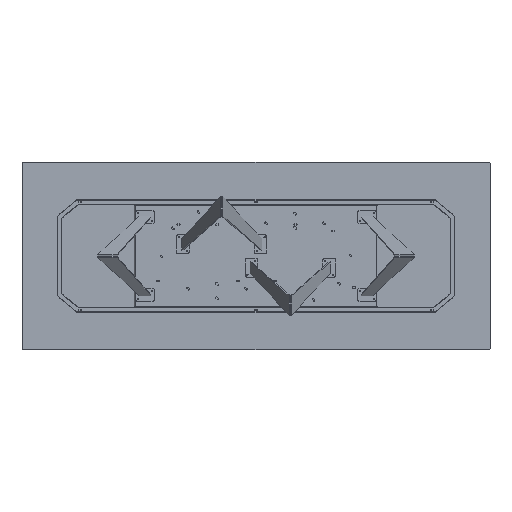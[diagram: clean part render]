
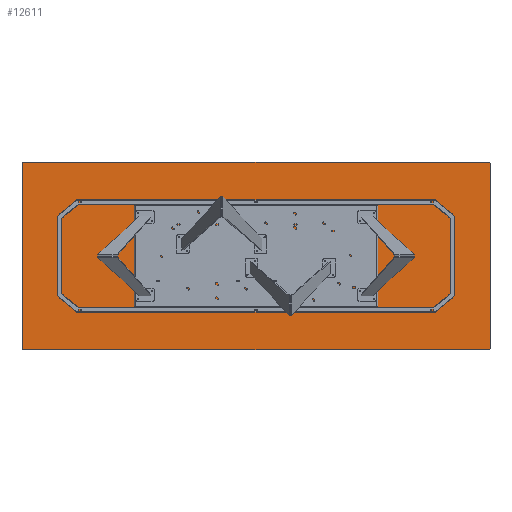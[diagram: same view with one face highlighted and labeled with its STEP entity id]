
A CAD part, front view. The second image highlights one B-rep face of the part: STEP entity #12611.
In plain terms, the highlighted planar face has unit normal (0, -1, 0).
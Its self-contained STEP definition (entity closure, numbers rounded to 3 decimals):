
#128 = PLANE ( 'NONE',  #15809 ) ;
#854 = AXIS2_PLACEMENT_3D ( 'NONE', #7617, #6273, #7448 ) ;
#1107 = CIRCLE ( 'NONE', #854, 5. ) ;
#1207 = DIRECTION ( 'NONE',  ( 0., -1., 0. ) ) ;
#1590 = ORIENTED_EDGE ( 'NONE', *, *, #5809, .T. ) ;
#2489 = DIRECTION ( 'NONE',  ( 0., 1., 0. ) ) ;
#2569 = ORIENTED_EDGE ( 'NONE', *, *, #4252, .T. ) ;
#2610 = CIRCLE ( 'NONE', #12014, 5. ) ;
#2655 = DIRECTION ( 'NONE',  ( 0., 0., 1. ) ) ;
#2742 = DIRECTION ( 'NONE',  ( 0., 0., -1. ) ) ;
#2816 = CIRCLE ( 'NONE', #8453, 5. ) ;
#2882 = CARTESIAN_POINT ( 'NONE',  ( -1500., 0., -600. ) ) ;
#2889 = CARTESIAN_POINT ( 'NONE',  ( 1500., 0., -600. ) ) ;
#3221 = EDGE_CURVE ( 'NONE', #14186, #4104, #14276, .T. ) ;
#3652 = DIRECTION ( 'NONE',  ( 0., 0., 1. ) ) ;
#3701 = VERTEX_POINT ( 'NONE', #4514 ) ;
#3790 = ORIENTED_EDGE ( 'NONE', *, *, #7242, .F. ) ;
#3842 = DIRECTION ( 'NONE',  ( 0., 0., 1. ) ) ;
#4064 = ORIENTED_EDGE ( 'NONE', *, *, #9234, .T. ) ;
#4104 = VERTEX_POINT ( 'NONE', #11499 ) ;
#4252 = EDGE_CURVE ( 'NONE', #14186, #10554, #6156, .T. ) ;
#4440 = CARTESIAN_POINT ( 'NONE',  ( 1500., 0., -595. ) ) ;
#4447 = VERTEX_POINT ( 'NONE', #8255 ) ;
#4514 = CARTESIAN_POINT ( 'NONE',  ( -1500., 0., -595. ) ) ;
#4572 = VECTOR ( 'NONE', #10548, 1000. ) ;
#5581 = CARTESIAN_POINT ( 'NONE',  ( 1495., 0., -595. ) ) ;
#5665 = CARTESIAN_POINT ( 'NONE',  ( -1495., 0., -595. ) ) ;
#5809 = EDGE_CURVE ( 'NONE', #4447, #10840, #1107, .T. ) ;
#5851 = EDGE_CURVE ( 'NONE', #3701, #10840, #11424, .T. ) ;
#6016 = VECTOR ( 'NONE', #6545, 1000. ) ;
#6156 = CIRCLE ( 'NONE', #13440, 5. ) ;
#6273 = DIRECTION ( 'NONE',  ( 0., -1., 0. ) ) ;
#6339 = CARTESIAN_POINT ( 'NONE',  ( 0., 0., 0. ) ) ;
#6545 = DIRECTION ( 'NONE',  ( 1., 0., 0. ) ) ;
#6710 = LINE ( 'NONE', #14076, #6016 ) ;
#6804 = ORIENTED_EDGE ( 'NONE', *, *, #5851, .F. ) ;
#6942 = CARTESIAN_POINT ( 'NONE',  ( 1495., 0., 600. ) ) ;
#7242 = EDGE_CURVE ( 'NONE', #4447, #12374, #6710, .T. ) ;
#7448 = DIRECTION ( 'NONE',  ( 0., 0., 1. ) ) ;
#7617 = CARTESIAN_POINT ( 'NONE',  ( -1495., 0., 595. ) ) ;
#7717 = CARTESIAN_POINT ( 'NONE',  ( 1495., 0., -600. ) ) ;
#8255 = CARTESIAN_POINT ( 'NONE',  ( -1495., 0., 600. ) ) ;
#8453 = AXIS2_PLACEMENT_3D ( 'NONE', #15214, #1207, #3652 ) ;
#8991 = VECTOR ( 'NONE', #2742, 1000. ) ;
#9045 = CARTESIAN_POINT ( 'NONE',  ( -1500., 0., -600. ) ) ;
#9234 = EDGE_CURVE ( 'NONE', #11188, #12374, #2816, .T. ) ;
#9371 = EDGE_CURVE ( 'NONE', #11188, #10554, #10381, .T. ) ;
#9649 = ORIENTED_EDGE ( 'NONE', *, *, #9371, .F. ) ;
#10381 = LINE ( 'NONE', #2889, #8991 ) ;
#10452 = CARTESIAN_POINT ( 'NONE',  ( 1500., 0., 595. ) ) ;
#10511 = ORIENTED_EDGE ( 'NONE', *, *, #3221, .F. ) ;
#10548 = DIRECTION ( 'NONE',  ( -1., 0., 0. ) ) ;
#10554 = VERTEX_POINT ( 'NONE', #4440 ) ;
#10731 = DIRECTION ( 'NONE',  ( 0., -1., 0. ) ) ;
#10840 = VERTEX_POINT ( 'NONE', #12071 ) ;
#11188 = VERTEX_POINT ( 'NONE', #10452 ) ;
#11424 = LINE ( 'NONE', #9045, #14585 ) ;
#11499 = CARTESIAN_POINT ( 'NONE',  ( -1495., 0., -600. ) ) ;
#11910 = DIRECTION ( 'NONE',  ( 0., 0., 1. ) ) ;
#12014 = AXIS2_PLACEMENT_3D ( 'NONE', #5665, #14538, #11910 ) ;
#12071 = CARTESIAN_POINT ( 'NONE',  ( -1500., 0., 595. ) ) ;
#12374 = VERTEX_POINT ( 'NONE', #6942 ) ;
#12611 = ADVANCED_FACE ( 'NONE', ( #14119 ), #128, .F. ) ;
#12806 = EDGE_CURVE ( 'NONE', #3701, #4104, #2610, .T. ) ;
#13440 = AXIS2_PLACEMENT_3D ( 'NONE', #5581, #10731, #15727 ) ;
#14076 = CARTESIAN_POINT ( 'NONE',  ( -1500., 0., 600. ) ) ;
#14119 = FACE_OUTER_BOUND ( 'NONE', #15669, .T. ) ;
#14186 = VERTEX_POINT ( 'NONE', #7717 ) ;
#14276 = LINE ( 'NONE', #2882, #4572 ) ;
#14538 = DIRECTION ( 'NONE',  ( 0., -1., 0. ) ) ;
#14585 = VECTOR ( 'NONE', #3842, 1000. ) ;
#14672 = ORIENTED_EDGE ( 'NONE', *, *, #12806, .T. ) ;
#15214 = CARTESIAN_POINT ( 'NONE',  ( 1495., 0., 595. ) ) ;
#15669 = EDGE_LOOP ( 'NONE', ( #9649, #4064, #3790, #1590, #6804, #14672, #10511, #2569 ) ) ;
#15727 = DIRECTION ( 'NONE',  ( 0., 0., 1. ) ) ;
#15809 = AXIS2_PLACEMENT_3D ( 'NONE', #6339, #2489, #2655 ) ;
